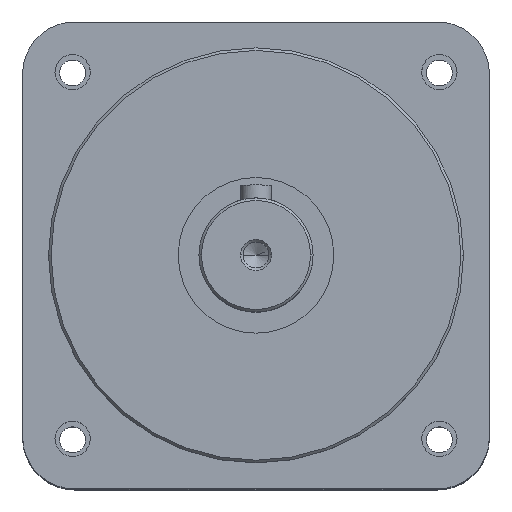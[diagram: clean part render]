
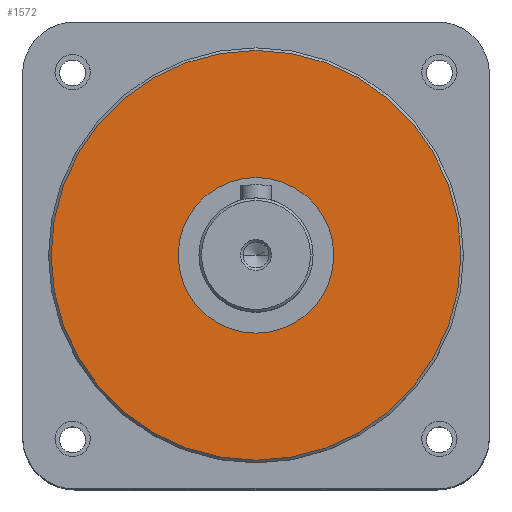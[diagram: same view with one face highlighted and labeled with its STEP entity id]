
A CAD part, top view. The second image highlights one B-rep face of the part: STEP entity #1572.
In plain terms, the highlighted planar face has unit normal (0, 0, 1).
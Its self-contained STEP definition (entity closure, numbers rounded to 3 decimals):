
#1064 = PLANE ( 'NONE',  #2850 ) ;
#1172 = DIRECTION ( 'NONE',  ( 0., 0., 1. ) ) ;
#1224 = CARTESIAN_POINT ( 'NONE',  ( 0., 0., 136. ) ) ;
#1274 = DIRECTION ( 'NONE',  ( 1., 0., 0. ) ) ;
#1572 = ADVANCED_FACE ( 'NONE', ( #2228 ), #1064, .T. ) ;
#1814 = VERTEX_POINT ( 'NONE', #4501 ) ;
#1918 = VERTEX_POINT ( 'NONE', #4577 ) ;
#2228 = FACE_OUTER_BOUND ( 'NONE', #3084, .T. ) ;
#2632 = EDGE_CURVE ( 'NONE', #1918, #1814, #4466, .T. ) ;
#2638 = EDGE_CURVE ( 'NONE', #1814, #1918, #4457, .T. ) ;
#2850 = AXIS2_PLACEMENT_3D ( 'NONE', #1224, #1172, #1274 ) ;
#3084 = EDGE_LOOP ( 'NONE', ( #4104, #3235 ) ) ;
#3235 = ORIENTED_EDGE ( 'NONE', *, *, #2638, .T. ) ;
#3405 = DIRECTION ( 'NONE',  ( 1., 0., 0. ) ) ;
#3406 = DIRECTION ( 'NONE',  ( 0., 0., 1. ) ) ;
#3407 = CARTESIAN_POINT ( 'NONE',  ( 0., 0., 136. ) ) ;
#3424 = DIRECTION ( 'NONE',  ( 1., 0., 0. ) ) ;
#3425 = DIRECTION ( 'NONE',  ( 0., 0., 1. ) ) ;
#3426 = CARTESIAN_POINT ( 'NONE',  ( 0., 0., 136. ) ) ;
#3705 = AXIS2_PLACEMENT_3D ( 'NONE', #3407, #3406, #3405 ) ;
#3709 = AXIS2_PLACEMENT_3D ( 'NONE', #3426, #3425, #3424 ) ;
#4104 = ORIENTED_EDGE ( 'NONE', *, *, #2632, .T. ) ;
#4457 = CIRCLE ( 'NONE', #3709, 39.5 ) ;
#4466 = CIRCLE ( 'NONE', #3705, 39.5 ) ;
#4501 = CARTESIAN_POINT ( 'NONE',  ( 39.5, 0., 136. ) ) ;
#4577 = CARTESIAN_POINT ( 'NONE',  ( -39.5, 0., 136. ) ) ;
